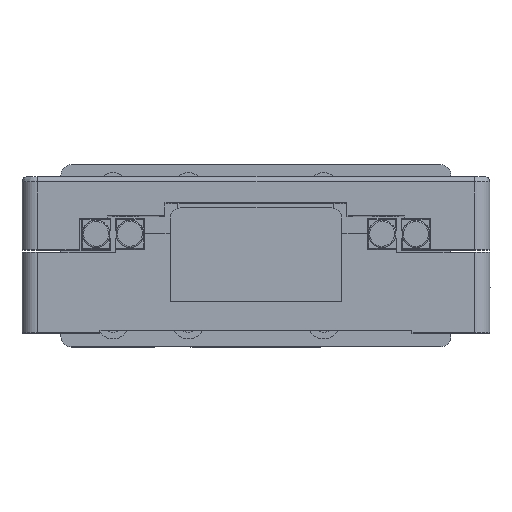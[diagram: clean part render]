
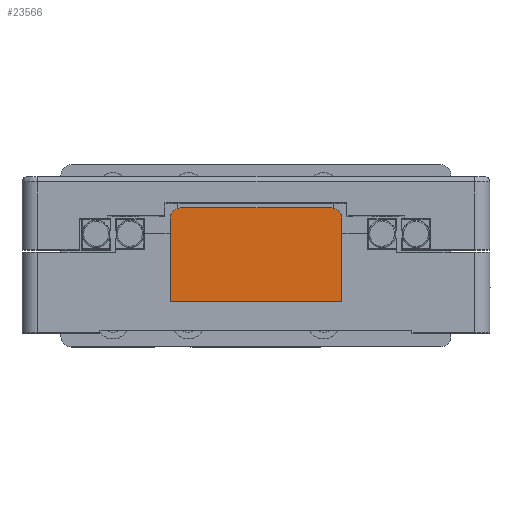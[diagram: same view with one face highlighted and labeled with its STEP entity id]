
A CAD part, top view. The second image highlights one B-rep face of the part: STEP entity #23566.
In plain terms, the highlighted planar face has unit normal (0, 0, 1).
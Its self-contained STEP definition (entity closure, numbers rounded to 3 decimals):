
#1015 = ORIENTED_EDGE ( 'NONE', *, *, #24254, .F. ) ;
#1282 = LINE ( 'NONE', #22682, #35710 ) ;
#3242 = EDGE_CURVE ( 'NONE', #20680, #29189, #1282, .T. ) ;
#3427 = AXIS2_PLACEMENT_3D ( 'NONE', #47998, #20602, #6903 ) ;
#4184 = ORIENTED_EDGE ( 'NONE', *, *, #23881, .F. ) ;
#5478 = EDGE_CURVE ( 'NONE', #14446, #12087, #40607, .T. ) ;
#6318 = CARTESIAN_POINT ( 'NONE',  ( 17.571, 5.662, 49.08 ) ) ;
#6903 = DIRECTION ( 'NONE',  ( -1., 0., 0. ) ) ;
#8460 = VECTOR ( 'NONE', #23220, 1000. ) ;
#9528 = ORIENTED_EDGE ( 'NONE', *, *, #48015, .F. ) ;
#9840 = VECTOR ( 'NONE', #52795, 1000. ) ;
#11896 = ORIENTED_EDGE ( 'NONE', *, *, #3242, .F. ) ;
#12087 = VERTEX_POINT ( 'NONE', #42938 ) ;
#14446 = VERTEX_POINT ( 'NONE', #54221 ) ;
#14901 = EDGE_CURVE ( 'NONE', #29189, #17031, #35502, .T. ) ;
#16153 = CARTESIAN_POINT ( 'NONE',  ( 1.071, -10.338, 49.08 ) ) ;
#16807 = AXIS2_PLACEMENT_3D ( 'NONE', #27047, #22697, #58690 ) ;
#17031 = VERTEX_POINT ( 'NONE', #6318 ) ;
#17781 = AXIS2_PLACEMENT_3D ( 'NONE', #42877, #20271, #38074 ) ;
#17956 = CARTESIAN_POINT ( 'NONE',  ( 15.571, 7.662, 49.08 ) ) ;
#18581 = VERTEX_POINT ( 'NONE', #51230 ) ;
#20250 = CIRCLE ( 'NONE', #16807, 2. ) ;
#20271 = DIRECTION ( 'NONE',  ( 0., 0., -1. ) ) ;
#20602 = DIRECTION ( 'NONE',  ( 0., 0., -1. ) ) ;
#20680 = VERTEX_POINT ( 'NONE', #35644 ) ;
#22027 = VECTOR ( 'NONE', #24307, 1000. ) ;
#22682 = CARTESIAN_POINT ( 'NONE',  ( 1.071, 7.662, 49.08 ) ) ;
#22697 = DIRECTION ( 'NONE',  ( 0., 0., -1. ) ) ;
#23220 = DIRECTION ( 'NONE',  ( 0., -1., 0. ) ) ;
#23566 = ADVANCED_FACE ( 'NONE', ( #36485 ), #37881, .F. ) ;
#23881 = EDGE_CURVE ( 'NONE', #17031, #18581, #28522, .T. ) ;
#24254 = EDGE_CURVE ( 'NONE', #18581, #14446, #43555, .T. ) ;
#24307 = DIRECTION ( 'NONE',  ( 0., 1., 0. ) ) ;
#27047 = CARTESIAN_POINT ( 'NONE',  ( -13.429, 5.662, 49.08 ) ) ;
#28522 = LINE ( 'NONE', #59425, #8460 ) ;
#29189 = VERTEX_POINT ( 'NONE', #17956 ) ;
#33423 = ORIENTED_EDGE ( 'NONE', *, *, #5478, .F. ) ;
#35502 = CIRCLE ( 'NONE', #3427, 2. ) ;
#35644 = CARTESIAN_POINT ( 'NONE',  ( -13.429, 7.662, 49.08 ) ) ;
#35710 = VECTOR ( 'NONE', #49871, 1000. ) ;
#36485 = FACE_OUTER_BOUND ( 'NONE', #41397, .T. ) ;
#37881 = PLANE ( 'NONE',  #17781 ) ;
#38074 = DIRECTION ( 'NONE',  ( -1., 0., 0. ) ) ;
#40607 = LINE ( 'NONE', #45965, #22027 ) ;
#41397 = EDGE_LOOP ( 'NONE', ( #49738, #11896, #9528, #33423, #1015, #4184 ) ) ;
#42877 = CARTESIAN_POINT ( 'NONE',  ( 1.071, -1.338, 49.08 ) ) ;
#42938 = CARTESIAN_POINT ( 'NONE',  ( -15.429, 5.662, 49.08 ) ) ;
#43555 = LINE ( 'NONE', #16153, #9840 ) ;
#45965 = CARTESIAN_POINT ( 'NONE',  ( -15.429, -1.338, 49.08 ) ) ;
#47998 = CARTESIAN_POINT ( 'NONE',  ( 15.571, 5.662, 49.08 ) ) ;
#48015 = EDGE_CURVE ( 'NONE', #12087, #20680, #20250, .T. ) ;
#49738 = ORIENTED_EDGE ( 'NONE', *, *, #14901, .F. ) ;
#49871 = DIRECTION ( 'NONE',  ( 1., 0., 0. ) ) ;
#51230 = CARTESIAN_POINT ( 'NONE',  ( 17.571, -10.338, 49.08 ) ) ;
#52795 = DIRECTION ( 'NONE',  ( -1., 0., 0. ) ) ;
#54221 = CARTESIAN_POINT ( 'NONE',  ( -15.429, -10.338, 49.08 ) ) ;
#58690 = DIRECTION ( 'NONE',  ( -1., 0., 0. ) ) ;
#59425 = CARTESIAN_POINT ( 'NONE',  ( 17.571, -1.338, 49.08 ) ) ;
